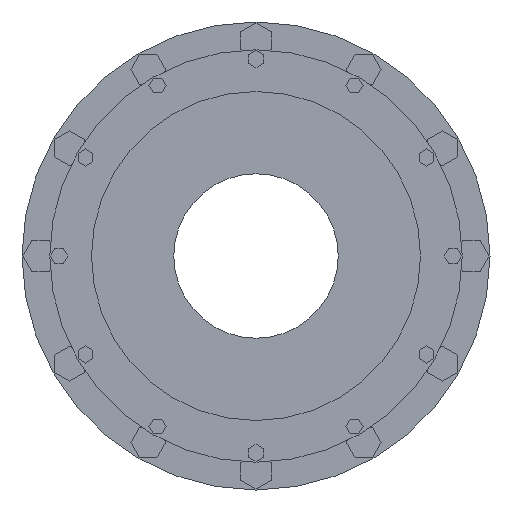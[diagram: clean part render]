
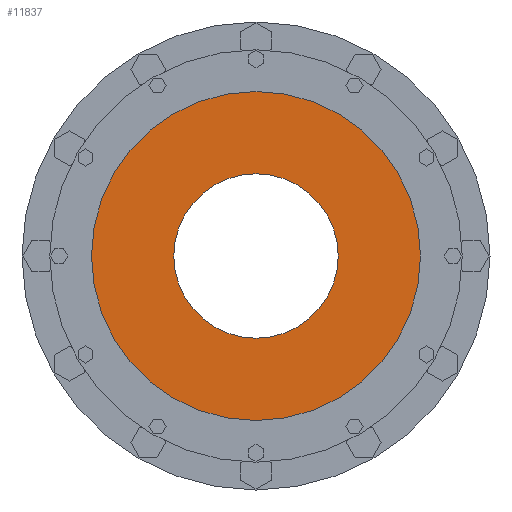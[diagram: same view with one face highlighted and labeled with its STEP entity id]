
A CAD part, left-side view. The second image highlights one B-rep face of the part: STEP entity #11837.
In plain terms, the highlighted planar face has unit normal (-1, 0, 0) as drawn and (1, 0, 0) by its records, which use the part's own axes.
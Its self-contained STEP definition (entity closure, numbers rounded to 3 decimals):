
#11661=CARTESIAN_POINT('',(-12.5,0.,0.));
#11662=DIRECTION('',(1.,0.,0.));
#11663=DIRECTION('',(0.,1.,0.));
#11664=AXIS2_PLACEMENT_3D('',#11661,#11662,#11663);
#11671=CARTESIAN_POINT('',(-12.5,0.,0.));
#11672=DIRECTION('',(-1.,0.,0.));
#11673=DIRECTION('',(0.,1.,0.));
#11674=AXIS2_PLACEMENT_3D('',#11671,#11672,#11673);
#11676=CARTESIAN_POINT('',(-12.5,0.,0.));
#11677=DIRECTION('',(1.,0.,0.));
#11678=DIRECTION('',(0.,1.,0.));
#11679=AXIS2_PLACEMENT_3D('',#11676,#11677,#11678);
#11755=CARTESIAN_POINT('',(-12.5,0.,0.));
#11756=DIRECTION('',(1.,0.,0.));
#11757=DIRECTION('',(0.,-1.,0.));
#11758=AXIS2_PLACEMENT_3D('',#11755,#11756,#11757);
#11782=CARTESIAN_POINT('',(-12.5,355.,0.));
#11784=VERTEX_POINT('',#11782);
#11786=CARTESIAN_POINT('',(-12.5,-355.,0.));
#11788=VERTEX_POINT('',#11786);
#11793=CARTESIAN_POINT('',(-12.5,177.5,0.));
#11794=CARTESIAN_POINT('',(-12.5,-177.5,0.));
#11795=VERTEX_POINT('',#11793);
#11796=VERTEX_POINT('',#11794);
#11821=CARTESIAN_POINT('',(-12.5,0.,0.));
#11822=DIRECTION('',(1.,0.,0.));
#11823=DIRECTION('',(0.,-1.,0.));
#11824=AXIS2_PLACEMENT_3D('',#11821,#11822,#11823);
#11825=PLANE('',#11824);
#11827=ORIENTED_EDGE('',*,*,#11826,.T.);
#11829=ORIENTED_EDGE('',*,*,#11828,.F.);
#11830=EDGE_LOOP('',(#11827,#11829));
#11831=FACE_OUTER_BOUND('',#11830,.F.);
#11832=ORIENTED_EDGE('',*,*,#11810,.T.);
#11834=ORIENTED_EDGE('',*,*,#11833,.T.);
#11835=EDGE_LOOP('',(#11832,#11834));
#11836=FACE_BOUND('',#11835,.F.);
#11837=ADVANCED_FACE('',(#11831,#11836),#11825,.T.);
#11665=CIRCLE('',#11664,177.5);
#11675=CIRCLE('',#11674,355.);
#11680=CIRCLE('',#11679,355.);
#11759=CIRCLE('',#11758,177.5);
#11810=EDGE_CURVE('',#11795,#11796,#11665,.T.);
#11826=EDGE_CURVE('',#11784,#11788,#11675,.T.);
#11828=EDGE_CURVE('',#11784,#11788,#11680,.T.);
#11833=EDGE_CURVE('',#11796,#11795,#11759,.T.);
